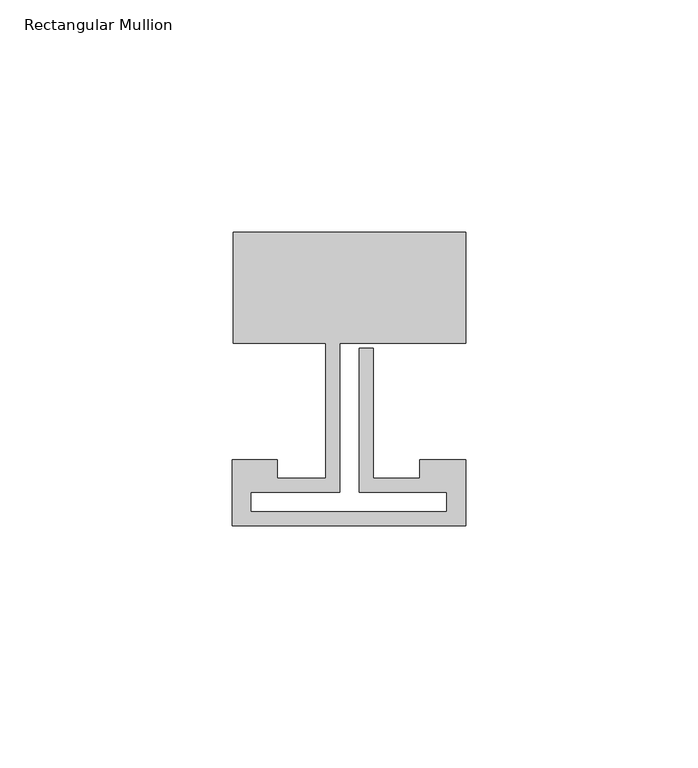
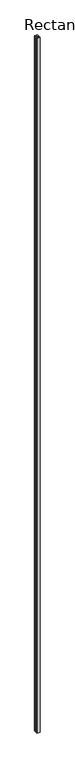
"""IFC4 building model written with IfcOpenShell, lengths in millimetres: member geometry, Rectangular Mullion : Reynaers_CW-50_Mullion-Transom_Horizontal_23.9mm_Facecap-02A."""

from ifc_helpers import new_model, si_unit, frame, origin, place, context, project, spatial, polyline, outline, extrude, source, transform, mapped, element, save


def rectangular_mullion_21c236ed(model_context):
    return source(origin(), model_context, "Body", "SweptSolid", [
        extrude(outline(polyline([(-24.8004059, 36.4), (25.1995941, 36.4), (25.1995941, 12.5), (-1.9004059, 12.5), (-1.9004059, -19.5), (-20.994845, -19.5), (-20.994845, -23.7191338), (21.1995941, -23.7191338), (21.1995941, -19.5), (2.2995941, -19.5), (2.2995941, 11.5), (5.2995941, 11.5), (5.2995941, -16.5), (15.2996495, -16.5), (15.2996495, -12.5), (25.1995941, -12.5), (25.1995941, -26.8), (-24.994845, -26.8), (-24.994845, -12.5), (-15.2996495, -12.5), (-15.2996495, -16.5), (-4.9004059, -16.5), (-4.9004059, 12.5), (-24.8004059, 12.5), (-24.8004059, 36.4)])), frame((0.0, 0.0, -12000.0), z_axis=(0.0, 0.0, 1.0), x_axis=(1.0, 0.0, 0.0)), (0.0, 0.0, 1.0), 12000.0),
    ])


if __name__ == "__main__":
    model = new_model("IFC4")
    model_context = context("Model", 3, world=origin())
    ifc_project = project(units=[si_unit("LENGTHUNIT", "METRE", prefix="MILLI")], contexts=[model_context])
    site = spatial("IfcSite", under=ifc_project)
    building = spatial("IfcBuilding", under=site)
    placement = place(None, origin())
    rectangular_mullion_shape = rectangular_mullion_21c236ed(model_context)
    element("IfcMember", 1, ObjectType="Rectangular Mullion : Reynaers_CW-50_Mullion-Transom_Horizontal_23.9mm_Facecap-02A", at=placement, inside=building, context=model_context, shape_type="MappedRepresentation", body=[
        mapped(rectangular_mullion_shape, transform((0.0, 0.0, 0.0), x_axis=(1.0, 0.0, 0.0), y_axis=(0.0, 1.0, 0.0), z_axis=(0.0, 0.0, 1.0))),
    ])
    save(model, "model.ifc")
